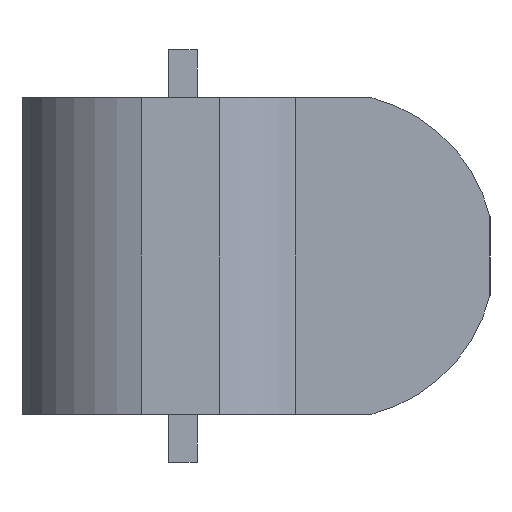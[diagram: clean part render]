
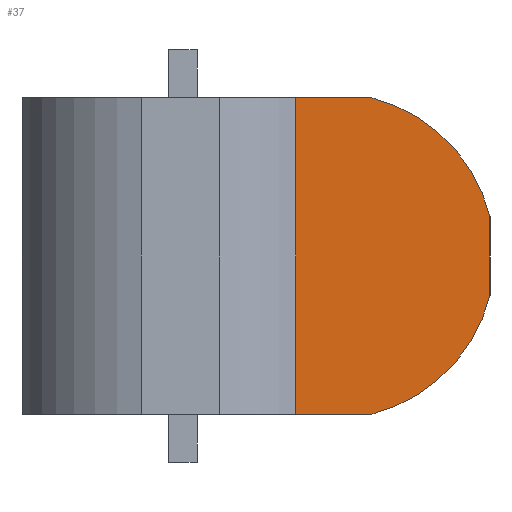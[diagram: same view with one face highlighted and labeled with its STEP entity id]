
A CAD part, left-side view. The second image highlights one B-rep face of the part: STEP entity #37.
In plain terms, the highlighted planar face has unit normal (-1, 0, 0).
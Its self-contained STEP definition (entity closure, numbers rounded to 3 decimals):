
#4 = VERTEX_POINT ( 'NONE', #71 ) ;
#24 = DIRECTION ( 'NONE',  ( 0., -1., 0. ) ) ;
#37 = ADVANCED_FACE ( 'NONE', ( #444 ), #587, .F. ) ;
#46 = DIRECTION ( 'NONE',  ( 0., 0., -1. ) ) ;
#54 = LINE ( 'NONE', #178, #767 ) ;
#58 = VECTOR ( 'NONE', #504, 1000. ) ;
#70 = EDGE_CURVE ( 'NONE', #282, #503, #174, .T. ) ;
#71 = CARTESIAN_POINT ( 'NONE',  ( 14., 0., -16.5 ) ) ;
#96 = EDGE_CURVE ( 'NONE', #4, #503, #162, .T. ) ;
#99 = VERTEX_POINT ( 'NONE', #339 ) ;
#105 = CARTESIAN_POINT ( 'NONE',  ( 14., -32.25, 4.093 ) ) ;
#109 = VERTEX_POINT ( 'NONE', #217 ) ;
#134 = CARTESIAN_POINT ( 'NONE',  ( 14., -15.75, 16.5 ) ) ;
#162 = LINE ( 'NONE', #337, #372 ) ;
#174 = CIRCLE ( 'NONE', #357, 17. ) ;
#178 = CARTESIAN_POINT ( 'NONE',  ( 14., -15.75, 16.5 ) ) ;
#186 = CARTESIAN_POINT ( 'NONE',  ( 14., -15.75, 0. ) ) ;
#217 = CARTESIAN_POINT ( 'NONE',  ( 14., -19.843, 16.5 ) ) ;
#224 = CARTESIAN_POINT ( 'NONE',  ( 14., -32.25, -4.093 ) ) ;
#226 = DIRECTION ( 'NONE',  ( 1., 0., 0. ) ) ;
#232 = EDGE_LOOP ( 'NONE', ( #717, #295, #445, #666, #762, #635 ) ) ;
#233 = EDGE_CURVE ( 'NONE', #99, #109, #54, .T. ) ;
#274 = CARTESIAN_POINT ( 'NONE',  ( 14., -32.25, 16.5 ) ) ;
#282 = VERTEX_POINT ( 'NONE', #224 ) ;
#294 = DIRECTION ( 'NONE',  ( 0., -1., 0. ) ) ;
#295 = ORIENTED_EDGE ( 'NONE', *, *, #70, .F. ) ;
#302 = VECTOR ( 'NONE', #792, 1000. ) ;
#315 = LINE ( 'NONE', #705, #58 ) ;
#337 = CARTESIAN_POINT ( 'NONE',  ( 14., -15.75, -16.5 ) ) ;
#339 = CARTESIAN_POINT ( 'NONE',  ( 14., 0., 16.5 ) ) ;
#357 = AXIS2_PLACEMENT_3D ( 'NONE', #186, #699, #379 ) ;
#372 = VECTOR ( 'NONE', #24, 1000. ) ;
#379 = DIRECTION ( 'NONE',  ( 0., 0., -1. ) ) ;
#400 = CIRCLE ( 'NONE', #796, 17. ) ;
#444 = FACE_OUTER_BOUND ( 'NONE', #232, .T. ) ;
#445 = ORIENTED_EDGE ( 'NONE', *, *, #446, .T. ) ;
#446 = EDGE_CURVE ( 'NONE', #282, #551, #645, .T. ) ;
#448 = DIRECTION ( 'NONE',  ( 0., 0., -1. ) ) ;
#456 = DIRECTION ( 'NONE',  ( 1., 0., 0. ) ) ;
#503 = VERTEX_POINT ( 'NONE', #539 ) ;
#504 = DIRECTION ( 'NONE',  ( 0., 0., 1. ) ) ;
#533 = AXIS2_PLACEMENT_3D ( 'NONE', #134, #456, #448 ) ;
#539 = CARTESIAN_POINT ( 'NONE',  ( 14., -19.843, -16.5 ) ) ;
#551 = VERTEX_POINT ( 'NONE', #105 ) ;
#553 = CARTESIAN_POINT ( 'NONE',  ( 14., -15.75, 0. ) ) ;
#587 = PLANE ( 'NONE',  #533 ) ;
#607 = EDGE_CURVE ( 'NONE', #109, #551, #400, .T. ) ;
#635 = ORIENTED_EDGE ( 'NONE', *, *, #706, .F. ) ;
#645 = LINE ( 'NONE', #274, #302 ) ;
#666 = ORIENTED_EDGE ( 'NONE', *, *, #607, .F. ) ;
#699 = DIRECTION ( 'NONE',  ( 1., 0., 0. ) ) ;
#705 = CARTESIAN_POINT ( 'NONE',  ( 14., 0., -16.5 ) ) ;
#706 = EDGE_CURVE ( 'NONE', #4, #99, #315, .T. ) ;
#717 = ORIENTED_EDGE ( 'NONE', *, *, #96, .T. ) ;
#762 = ORIENTED_EDGE ( 'NONE', *, *, #233, .F. ) ;
#767 = VECTOR ( 'NONE', #294, 1000. ) ;
#792 = DIRECTION ( 'NONE',  ( 0., 0., 1. ) ) ;
#796 = AXIS2_PLACEMENT_3D ( 'NONE', #553, #226, #46 ) ;
